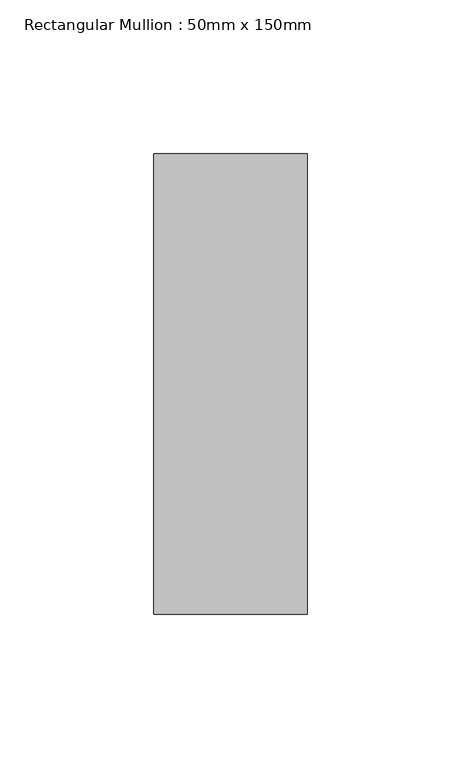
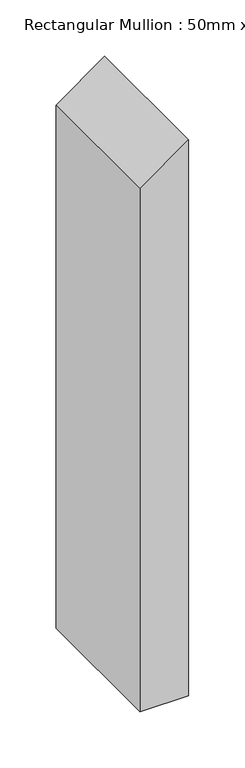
"""IFC4 building model written with IfcOpenShell, lengths in millimetres: member geometry, Rectangular Mullion : 50mm x 150mm."""

from ifc_helpers import new_model, si_unit, frame, origin, place, context, project, spatial, polyline, outline, extrude, source, transform, mapped, element, save


def rectangular_mullion_50mm_x_150mm_2678c853(model_context):
    return source(origin(), model_context, "Body", "SweptSolid", [
        extrude(outline(polyline([(-43.6001645, 25.0), (-79.4622779, -25.0), (-648.303776, -25.0), (-648.303776, 25.0), (-43.6001645, 25.0)])), frame((0.0, -75.0, 0.0), z_axis=(0.0, 1.0, 0.0), x_axis=(0.0, 0.0, 1.0)), (0.0, 0.0, 1.0), 150.0),
    ])


if __name__ == "__main__":
    model = new_model("IFC4")
    model_context = context("Model", 3, world=origin())
    ifc_project = project(units=[si_unit("LENGTHUNIT", "METRE", prefix="MILLI")], contexts=[model_context])
    site = spatial("IfcSite", under=ifc_project)
    building = spatial("IfcBuilding", under=site)
    placement = place(None, origin())
    rectangular_mullion_50mm_x_150mm_shape = rectangular_mullion_50mm_x_150mm_2678c853(model_context)
    element("IfcMember", 1, ObjectType="Rectangular Mullion : 50mm x 150mm", at=placement, inside=building, context=model_context, shape_type="MappedRepresentation", body=[
        mapped(rectangular_mullion_50mm_x_150mm_shape, transform((0.0, 0.0, 0.0), x_axis=(1.0, 0.0, 0.0), y_axis=(0.0, 1.0, 0.0), z_axis=(0.0, 0.0, 1.0))),
    ])
    save(model, "model.ifc")
